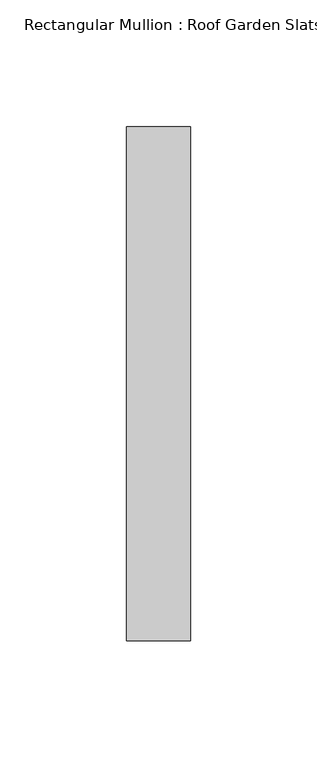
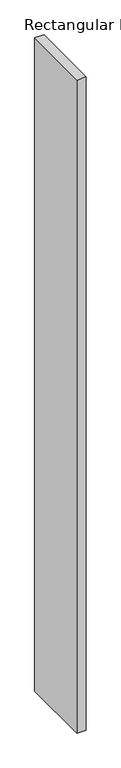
"""IFC4 building model written with IfcOpenShell, lengths in millimetres: member geometry, Rectangular Mullion : Roof Garden Slats."""

from ifc_helpers import new_model, si_unit, frame, origin, place, context, project, spatial, polyline, outline, extrude, source, transform, mapped, element, save


def rectangular_mullion_roof_garden_slats_a1399027(model_context):
    return source(origin(), model_context, "Body", "SweptSolid", [
        extrude(outline(polyline([(0.0, 139.7), (0.0, -63.5), (-25.4, -63.5), (-25.4, 139.7), (0.0, 139.7)])), frame((0.0, 0.0, -1911.8011503), z_axis=(0.0, 0.0, 1.0), x_axis=(1.0, 0.0, 0.0)), (0.0, 0.0, 1.0), 1911.8011503),
    ])


if __name__ == "__main__":
    model = new_model("IFC4")
    model_context = context("Model", 3, world=origin())
    ifc_project = project(units=[si_unit("LENGTHUNIT", "METRE", prefix="MILLI")], contexts=[model_context])
    site = spatial("IfcSite", under=ifc_project)
    building = spatial("IfcBuilding", under=site)
    placement = place(None, origin())
    rectangular_mullion_roof_garden_slats_shape = rectangular_mullion_roof_garden_slats_a1399027(model_context)
    element("IfcMember", 1, ObjectType="Rectangular Mullion : Roof Garden Slats", at=placement, inside=building, context=model_context, shape_type="MappedRepresentation", body=[
        mapped(rectangular_mullion_roof_garden_slats_shape, transform((0.0, 0.0, 0.0), x_axis=(1.0, 0.0, 0.0), y_axis=(0.0, 1.0, 0.0), z_axis=(0.0, 0.0, 1.0))),
    ])
    save(model, "model.ifc")
